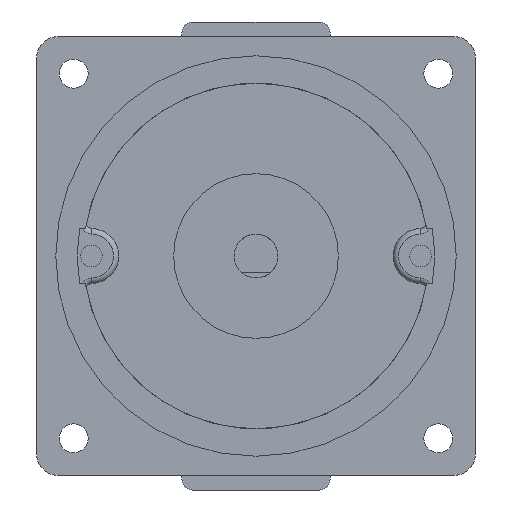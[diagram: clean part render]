
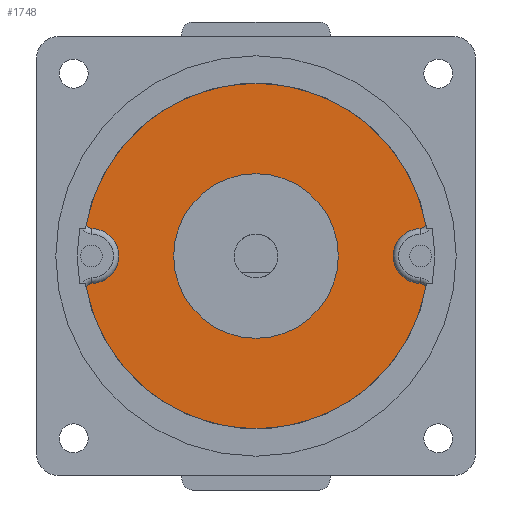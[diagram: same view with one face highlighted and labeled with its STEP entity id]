
A CAD part, front view. The second image highlights one B-rep face of the part: STEP entity #1748.
In plain terms, the highlighted planar face has unit normal (0, -1, 0).
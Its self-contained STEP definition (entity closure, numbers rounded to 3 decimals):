
#622=CARTESIAN_POINT('',(15.0,-1.05,0.));
#623=VERTEX_POINT('',#622);
#624=CARTESIAN_POINT('',(0.0,-1.05,0.0));
#625=DIRECTION('',(0.0,1.0,0.0));
#626=DIRECTION('',(-1.0,0.0,0.0));
#627=AXIS2_PLACEMENT_3D('',#624,#625,#626);
#628=CIRCLE('',#627,15.0);
#629=EDGE_CURVE('',#623,#623,#628,.T.);
#1666=CARTESIAN_POINT('',(0.0,-1.05,0.0));
#1667=DIRECTION('',(0.0,1.0,0.0));
#1668=DIRECTION('',(0.0,0.0,1.0));
#1669=AXIS2_PLACEMENT_3D('',#1666,#1667,#1668);
#1670=PLANE('',#1669);
#1671=CARTESIAN_POINT('',(30.885,-1.05,-6.196));
#1672=VERTEX_POINT('',#1671);
#1673=CARTESIAN_POINT('',(29.92,-1.05,-4.999));
#1674=VERTEX_POINT('',#1673);
#1675=CARTESIAN_POINT('',(29.904,-1.05,-5.999));
#1676=DIRECTION('',(0.0,-1.0,0.0));
#1677=DIRECTION('',(-0.98,0.0,0.197));
#1678=AXIS2_PLACEMENT_3D('',#1675,#1676,#1677);
#1679=CIRCLE('',#1678,1.0);
#1680=EDGE_CURVE('',#1672,#1674,#1679,.T.);
#1681=ORIENTED_EDGE('',*,*,#1680,.T.);
#1682=CARTESIAN_POINT('',(29.92,-1.05,4.999));
#1683=VERTEX_POINT('',#1682);
#1684=CARTESIAN_POINT('',(30.0,-1.05,0.0));
#1685=DIRECTION('',(0.0,1.0,0.0));
#1686=DIRECTION('',(0.0,0.0,1.0));
#1687=AXIS2_PLACEMENT_3D('',#1684,#1685,#1686);
#1688=CIRCLE('',#1687,5.0);
#1689=EDGE_CURVE('',#1674,#1683,#1688,.T.);
#1690=ORIENTED_EDGE('',*,*,#1689,.T.);
#1691=CARTESIAN_POINT('',(30.885,-1.05,6.196));
#1692=VERTEX_POINT('',#1691);
#1693=CARTESIAN_POINT('',(29.904,-1.05,5.999));
#1694=DIRECTION('',(0.0,-1.0,0.0));
#1695=DIRECTION('',(-0.98,0.0,-0.197));
#1696=AXIS2_PLACEMENT_3D('',#1693,#1694,#1695);
#1697=CIRCLE('',#1696,1.0);
#1698=EDGE_CURVE('',#1683,#1692,#1697,.T.);
#1699=ORIENTED_EDGE('',*,*,#1698,.T.);
#1700=CARTESIAN_POINT('',(-30.885,-1.05,6.196));
#1701=VERTEX_POINT('',#1700);
#1702=CARTESIAN_POINT('',(0.0,-1.05,0.0));
#1703=DIRECTION('',(0.0,-1.0,0.0));
#1704=DIRECTION('',(-1.0,0.0,0.0));
#1705=AXIS2_PLACEMENT_3D('',#1702,#1703,#1704);
#1706=CIRCLE('',#1705,31.5);
#1707=EDGE_CURVE('',#1692,#1701,#1706,.T.);
#1708=ORIENTED_EDGE('',*,*,#1707,.T.);
#1709=CARTESIAN_POINT('',(-29.92,-1.05,4.999));
#1710=VERTEX_POINT('',#1709);
#1711=CARTESIAN_POINT('',(-29.904,-1.05,5.999));
#1712=DIRECTION('',(0.0,-1.0,0.0));
#1713=DIRECTION('',(0.98,0.0,-0.197));
#1714=AXIS2_PLACEMENT_3D('',#1711,#1712,#1713);
#1715=CIRCLE('',#1714,1.0);
#1716=EDGE_CURVE('',#1701,#1710,#1715,.T.);
#1717=ORIENTED_EDGE('',*,*,#1716,.T.);
#1718=CARTESIAN_POINT('',(-29.92,-1.05,-4.999));
#1719=VERTEX_POINT('',#1718);
#1720=CARTESIAN_POINT('',(-30.0,-1.05,0.0));
#1721=DIRECTION('',(0.0,1.0,0.0));
#1722=DIRECTION('',(0.0,0.0,-1.0));
#1723=AXIS2_PLACEMENT_3D('',#1720,#1721,#1722);
#1724=CIRCLE('',#1723,5.0);
#1725=EDGE_CURVE('',#1710,#1719,#1724,.T.);
#1726=ORIENTED_EDGE('',*,*,#1725,.T.);
#1727=CARTESIAN_POINT('',(-30.885,-1.05,-6.196));
#1728=VERTEX_POINT('',#1727);
#1729=CARTESIAN_POINT('',(-29.904,-1.05,-5.999));
#1730=DIRECTION('',(0.0,-1.0,0.0));
#1731=DIRECTION('',(0.98,0.0,0.197));
#1732=AXIS2_PLACEMENT_3D('',#1729,#1730,#1731);
#1733=CIRCLE('',#1732,1.0);
#1734=EDGE_CURVE('',#1719,#1728,#1733,.T.);
#1735=ORIENTED_EDGE('',*,*,#1734,.T.);
#1736=CARTESIAN_POINT('',(0.0,-1.05,0.0));
#1737=DIRECTION('',(0.0,-1.0,0.0));
#1738=DIRECTION('',(-1.0,0.0,0.0));
#1739=AXIS2_PLACEMENT_3D('',#1736,#1737,#1738);
#1740=CIRCLE('',#1739,31.5);
#1741=EDGE_CURVE('',#1728,#1672,#1740,.T.);
#1742=ORIENTED_EDGE('',*,*,#1741,.T.);
#1743=EDGE_LOOP('',(#1681,#1690,#1699,#1708,#1717,#1726,#1735,#1742));
#1744=FACE_OUTER_BOUND('',#1743,.T.);
#1745=ORIENTED_EDGE('',*,*,#629,.T.);
#1746=EDGE_LOOP('',(#1745));
#1747=FACE_BOUND('',#1746,.T.);
#1748=ADVANCED_FACE('',(#1744,#1747),#1670,.F.);
